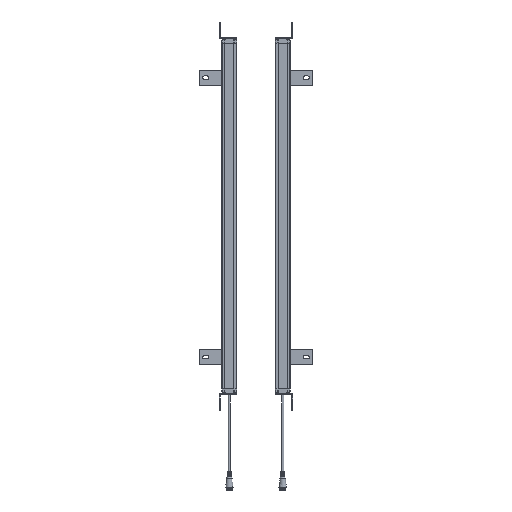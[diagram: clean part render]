
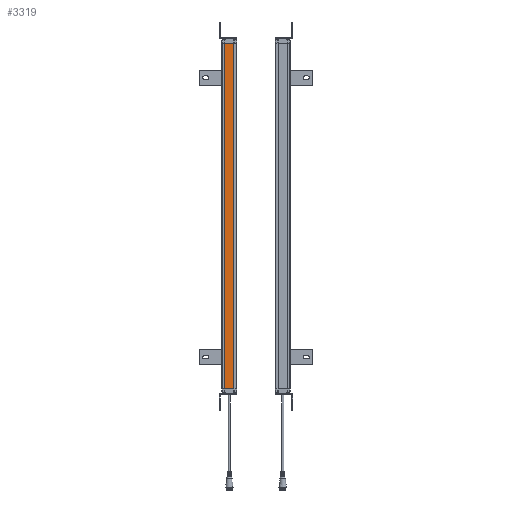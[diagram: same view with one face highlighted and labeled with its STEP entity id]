
A CAD part, left-side view. The second image highlights one B-rep face of the part: STEP entity #3319.
In plain terms, the highlighted planar face has unit normal (-1, 0, 0).
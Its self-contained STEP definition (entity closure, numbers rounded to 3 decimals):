
#1795=FACE_OUTER_BOUND('',#5986,.T.);
#3319=ADVANCED_FACE('',(#1795),#4749,.T.);
#4749=PLANE('',#29857);
#5986=EDGE_LOOP('',(#9184,#9185,#9186,#9187));
#9184=ORIENTED_EDGE('',*,*,#19383,.F.);
#9185=ORIENTED_EDGE('',*,*,#19072,.T.);
#9186=ORIENTED_EDGE('',*,*,#19385,.T.);
#9187=ORIENTED_EDGE('',*,*,#19386,.F.);
#16145=VERTEX_POINT('',#43699);
#16146=VERTEX_POINT('',#43701);
#16357=VERTEX_POINT('',#44323);
#16358=VERTEX_POINT('',#44327);
#19072=EDGE_CURVE('',#16146,#16145,#24663,.T.);
#19383=EDGE_CURVE('',#16146,#16357,#24884,.T.);
#19385=EDGE_CURVE('',#16145,#16358,#24886,.T.);
#19386=EDGE_CURVE('',#16357,#16358,#24887,.T.);
#24663=LINE('',#43700,#27142);
#24884=LINE('',#44322,#27363);
#24886=LINE('',#44326,#27365);
#24887=LINE('',#44328,#27366);
#27142=VECTOR('',#33404,1.);
#27363=VECTOR('',#34005,1.);
#27365=VECTOR('',#34009,1.);
#27366=VECTOR('',#34010,1.);
#29857=AXIS2_PLACEMENT_3D('',#44329,#34011,#34012);
#33404=DIRECTION('',(0.,1.,0.));
#34005=DIRECTION('',(0.,0.,-1.));
#34009=DIRECTION('',(0.,0.,-1.));
#34010=DIRECTION('',(0.,1.,0.));
#34011=DIRECTION('',(-1.,0.,0.));
#34012=DIRECTION('',(0.,1.,0.));
#43699=CARTESIAN_POINT('',(50.4,-5.5,638.059));
#43700=CARTESIAN_POINT('',(50.4,-5.5,638.059));
#43701=CARTESIAN_POINT('',(50.4,-23.5,638.059));
#44322=CARTESIAN_POINT('',(50.4,-23.5,103.059));
#44323=CARTESIAN_POINT('',(50.4,-23.5,-41.941));
#44326=CARTESIAN_POINT('',(50.4,-5.5,103.059));
#44327=CARTESIAN_POINT('',(50.4,-5.5,-41.941));
#44328=CARTESIAN_POINT('',(50.4,-23.5,-41.941));
#44329=CARTESIAN_POINT('',(50.4,-5.5,-61.941));
